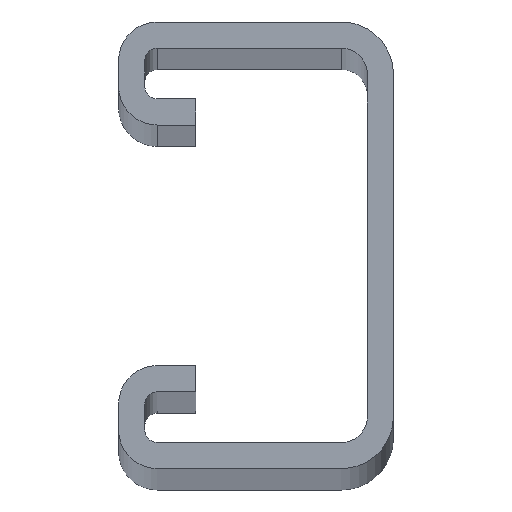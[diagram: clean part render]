
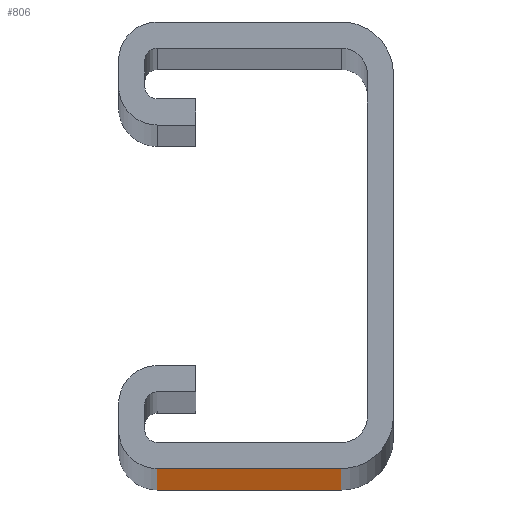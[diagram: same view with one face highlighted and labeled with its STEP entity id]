
A CAD part, top view. The second image highlights one B-rep face of the part: STEP entity #806.
In plain terms, the highlighted planar face has unit normal (0, -1, 0).
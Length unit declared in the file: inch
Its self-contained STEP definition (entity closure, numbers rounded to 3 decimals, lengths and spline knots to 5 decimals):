
#150 = CARTESIAN_POINT ( 'NONE',  ( -0.859, -0.8125, 22.326 ) ) ;
#164 = CARTESIAN_POINT ( 'NONE',  ( -0.189, -0.8125, -22.326 ) ) ;
#218 = EDGE_CURVE ( 'NONE', #2092, #2062, #1624, .T. ) ;
#280 = EDGE_LOOP ( 'NONE', ( #1603, #1602, #1601, #1600 ) ) ;
#318 = CARTESIAN_POINT ( 'NONE',  ( -0.189, -0.8125, 22.326 ) ) ;
#331 = CARTESIAN_POINT ( 'NONE',  ( -0.859, -0.8125, -22.326 ) ) ;
#376 = DIRECTION ( 'NONE',  ( 1., 0., 0. ) ) ;
#377 = CARTESIAN_POINT ( 'NONE',  ( -0.859, -0.8125, 22.326 ) ) ;
#657 = AXIS2_PLACEMENT_3D ( 'NONE', #1886, #1878, #1877 ) ;
#752 = EDGE_CURVE ( 'NONE', #2062, #2103, #1234, .T. ) ;
#806 = ADVANCED_FACE ( 'NONE', ( #1164 ), #1885, .T. ) ;
#835 = EDGE_CURVE ( 'NONE', #2092, #2073, #1063, .T. ) ;
#997 = LINE ( 'NONE', #377, #998 ) ;
#998 = VECTOR ( 'NONE', #376, 39.37008 ) ;
#1063 = LINE ( 'NONE', #2174, #1067 ) ;
#1067 = VECTOR ( 'NONE', #2173, 39.37008 ) ;
#1164 = FACE_OUTER_BOUND ( 'NONE', #280, .T. ) ;
#1234 = LINE ( 'NONE', #2298, #1235 ) ;
#1235 = VECTOR ( 'NONE', #2297, 39.37008 ) ;
#1331 = VECTOR ( 'NONE', #2014, 39.37008 ) ;
#1505 = EDGE_CURVE ( 'NONE', #2073, #2103, #997, .T. ) ;
#1600 = ORIENTED_EDGE ( 'NONE', *, *, #752, .T. ) ;
#1601 = ORIENTED_EDGE ( 'NONE', *, *, #218, .T. ) ;
#1602 = ORIENTED_EDGE ( 'NONE', *, *, #835, .F. ) ;
#1603 = ORIENTED_EDGE ( 'NONE', *, *, #1505, .F. ) ;
#1624 = LINE ( 'NONE', #2018, #1331 ) ;
#1877 = DIRECTION ( 'NONE',  ( 0., 0., -1. ) ) ;
#1878 = DIRECTION ( 'NONE',  ( 0., -1., 0. ) ) ;
#1885 = PLANE ( 'NONE',  #657 ) ;
#1886 = CARTESIAN_POINT ( 'NONE',  ( -0.859, -0.8125, -22.326 ) ) ;
#2014 = DIRECTION ( 'NONE',  ( 1., 0., 0. ) ) ;
#2018 = CARTESIAN_POINT ( 'NONE',  ( -0.859, -0.8125, -22.326 ) ) ;
#2062 = VERTEX_POINT ( 'NONE', #164 ) ;
#2073 = VERTEX_POINT ( 'NONE', #150 ) ;
#2092 = VERTEX_POINT ( 'NONE', #331 ) ;
#2103 = VERTEX_POINT ( 'NONE', #318 ) ;
#2173 = DIRECTION ( 'NONE',  ( 0., 0., 1. ) ) ;
#2174 = CARTESIAN_POINT ( 'NONE',  ( -0.859, -0.8125, -22.326 ) ) ;
#2297 = DIRECTION ( 'NONE',  ( 0., 0., 1. ) ) ;
#2298 = CARTESIAN_POINT ( 'NONE',  ( -0.189, -0.8125, -22.326 ) ) ;
